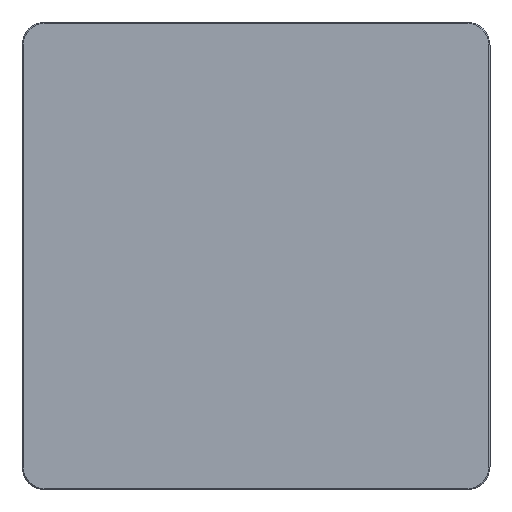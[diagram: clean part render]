
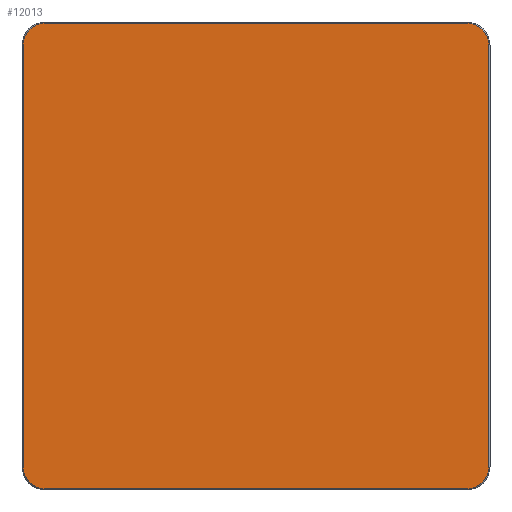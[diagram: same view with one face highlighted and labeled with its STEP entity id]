
A CAD part, top view. The second image highlights one B-rep face of the part: STEP entity #12013.
In plain terms, the highlighted planar face has unit normal (0, 0, 1).
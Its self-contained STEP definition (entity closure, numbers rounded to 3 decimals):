
#11938=CARTESIAN_POINT('',(0.,0.,20.));
#11939=DIRECTION('',(1.,0.,0.));
#11940=DIRECTION('',(0.,0.,1.));
#11941=AXIS2_PLACEMENT_3D('',#11938,#11940,#11939);
#11942=PLANE('',#11941);
#11943=CARTESIAN_POINT('',(-315.,-348.5,20.));
#11944=VERTEX_POINT('',#11943);
#11945=CARTESIAN_POINT('',(315.,-348.5,20.));
#11946=VERTEX_POINT('',#11945);
#11947=CARTESIAN_POINT('',(-315.,-348.5,20.));
#11948=DIRECTION('',(1.,0.,0.));
#11949=VECTOR('',#11948,630.);
#11950=LINE('',#11947,#11949);
#11951=EDGE_CURVE('',#11944,#11946,#11950,.T.);
#11952=ORIENTED_EDGE('E105',*,*,#11951,.T.);
#11953=CARTESIAN_POINT('',(348.5,-315.,20.));
#11954=VERTEX_POINT('',#11953);
#11955=CARTESIAN_POINT('',(315.,-315.,20.));
#11956=DIRECTION('',(0.,-1.,0.));
#11957=DIRECTION('',(0.,-0.,1.));
#11958=AXIS2_PLACEMENT_3D('',#11955,#11957,#11956);
#11959=CIRCLE('',#11958,33.5);
#11960=EDGE_CURVE('',#11946,#11954,#11959,.T.);
#11961=ORIENTED_EDGE('E107',*,*,#11960,.T.);
#11962=CARTESIAN_POINT('',(348.5,315.,20.));
#11963=VERTEX_POINT('',#11962);
#11964=CARTESIAN_POINT('',(348.5,-315.,20.));
#11965=DIRECTION('',(0.,1.,0.));
#11966=VECTOR('',#11965,630.);
#11967=LINE('',#11964,#11966);
#11968=EDGE_CURVE('',#11954,#11963,#11967,.T.);
#11969=ORIENTED_EDGE('E109',*,*,#11968,.T.);
#11970=CARTESIAN_POINT('',(315.,348.5,20.));
#11971=VERTEX_POINT('',#11970);
#11972=CARTESIAN_POINT('',(315.,315.,20.));
#11973=DIRECTION('',(1.,0.,0.));
#11974=DIRECTION('',(0.,0.,1.));
#11975=AXIS2_PLACEMENT_3D('',#11972,#11974,#11973);
#11976=CIRCLE('',#11975,33.5);
#11977=EDGE_CURVE('',#11963,#11971,#11976,.T.);
#11978=ORIENTED_EDGE('E111',*,*,#11977,.T.);
#11979=CARTESIAN_POINT('',(-315.,348.5,20.));
#11980=VERTEX_POINT('',#11979);
#11981=CARTESIAN_POINT('',(315.,348.5,20.));
#11982=DIRECTION('',(-1.,0.,0.));
#11983=VECTOR('',#11982,630.);
#11984=LINE('',#11981,#11983);
#11985=EDGE_CURVE('',#11971,#11980,#11984,.T.);
#11986=ORIENTED_EDGE('E113',*,*,#11985,.T.);
#11987=CARTESIAN_POINT('',(-348.5,315.,20.));
#11988=VERTEX_POINT('',#11987);
#11989=CARTESIAN_POINT('',(-315.,315.,20.));
#11990=DIRECTION('',(0.,1.,0.));
#11991=DIRECTION('',(0.,0.,1.));
#11992=AXIS2_PLACEMENT_3D('',#11989,#11991,#11990);
#11993=CIRCLE('',#11992,33.5);
#11994=EDGE_CURVE('',#11980,#11988,#11993,.T.);
#11995=ORIENTED_EDGE('E115',*,*,#11994,.T.);
#11996=CARTESIAN_POINT('',(-348.5,-315.,20.));
#11997=VERTEX_POINT('',#11996);
#11998=CARTESIAN_POINT('',(-348.5,315.,20.));
#11999=DIRECTION('',(0.,-1.,0.));
#12000=VECTOR('',#11999,630.);
#12001=LINE('',#11998,#12000);
#12002=EDGE_CURVE('',#11988,#11997,#12001,.T.);
#12003=ORIENTED_EDGE('E117',*,*,#12002,.T.);
#12004=CARTESIAN_POINT('',(-315.,-315.,20.));
#12005=DIRECTION('',(-1.,0.,0.));
#12006=DIRECTION('',(0.,0.,1.));
#12007=AXIS2_PLACEMENT_3D('',#12004,#12006,#12005);
#12008=CIRCLE('',#12007,33.5);
#12009=EDGE_CURVE('',#11997,#11944,#12008,.T.);
#12010=ORIENTED_EDGE('E119',*,*,#12009,.T.);
#12011=EDGE_LOOP('',(#11952,#11961,#11969,#11978,#11986,#11995,#12003,#12010));
#12012=FACE_OUTER_BOUND('',#12011,.T.);
#12013=ADVANCED_FACE('F2',(#12012),#11942,.T.);
